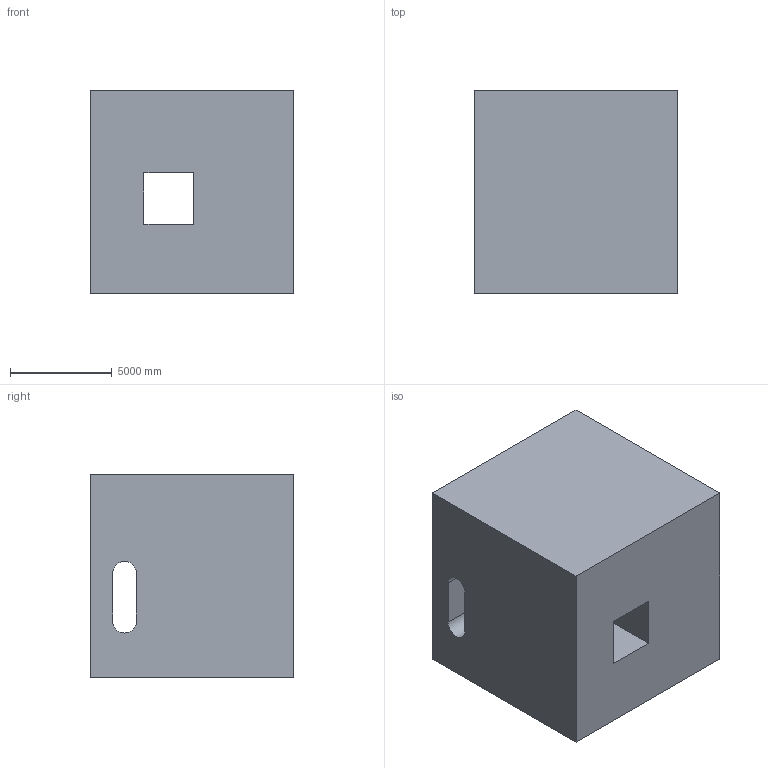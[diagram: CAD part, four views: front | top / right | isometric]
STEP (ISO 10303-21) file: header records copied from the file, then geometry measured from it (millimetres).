
FILE_DESCRIPTION (( 'STEP AP203' ), '1' );
FILE_NAME ('143.STEP', '2022-07-28T13:43:36', ( 'user' ), ( '' ), 'SwSTEP 2.0', 'SolidWorks 2021', '' );
FILE_SCHEMA (( 'CONFIG_CONTROL_DESIGN' ));
Length unit declared in the file: centimetre
Products named in the file (1): 143
Bounding box: 10000 x 10000 x 10000 mm (x, y, z)
Volume: 906082686216.4 mm3; surface area: 742455412.3 mm2
Topology: 1 solids, 1 shells, 18 faces, 54 edges, 36 vertices
Faces by surface type: plane 13, cylinder 5
Entity records: 697 total; most frequent: CARTESIAN_POINT 109, ORIENTED_EDGE 108, DIRECTION 102, EDGE_CURVE 54, VECTOR 44, LINE 44, VERTEX_POINT 36, AXIS2_PLACEMENT_3D 29
